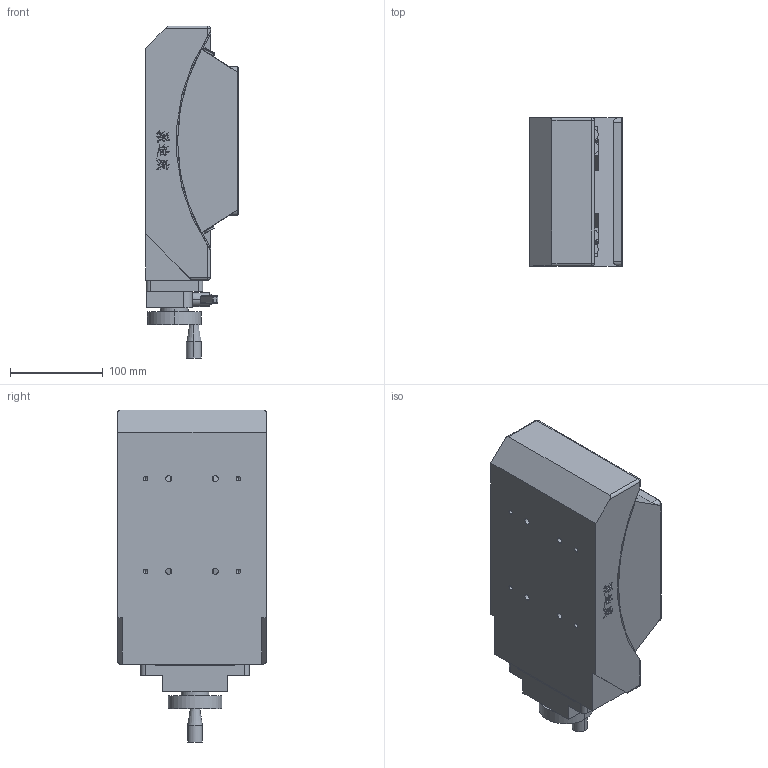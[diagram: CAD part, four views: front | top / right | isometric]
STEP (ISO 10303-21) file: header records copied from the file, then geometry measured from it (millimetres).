
FILE_DESCRIPTION (( 'STEP AP214' ), '1' );
FILE_NAME ('PT- SD304.STEP', '2023-01-17T01:41:16', ( '' ), ( '' ), 'SwSTEP 2.0', 'SolidWorks 2017', '' );
FILE_SCHEMA (( 'AUTOMOTIVE_DESIGN' ));
Length unit declared in the file: millimetre
Products named in the file (5): ZJ130-15____^PT- GD304; ZJ130-15____-0^PT- GD304; 忒雄參忒; PT- SD304; ZJ130-15 ____^PT- GD304
Assembly tree (7 placements, depth 2):
  PT- SD304
    ZJ130-15 ____^PT- GD304
    ZJ130-15____^PT- GD304
    ZJ130-15____-0^PT- GD304  x4
    忒雄參忒
Bounding box: 100 x 160 x 358 mm (x, y, z)
Volume: 3438100.5 mm3; surface area: 357708.9 mm2
Topology: 7 solids, 7 shells, 519 faces, 1339 edges, 813 vertices
Faces by surface type: plane 185, cylinder 163, bspline 89, cone 78, sphere 4
Entity records: 17647 total; most frequent: CARTESIAN_POINT 6506, ORIENTED_EDGE 2338, DIRECTION 2071, EDGE_CURVE 1169, VERTEX_POINT 755, VECTOR 703, LINE 703, AXIS2_PLACEMENT_3D 684
